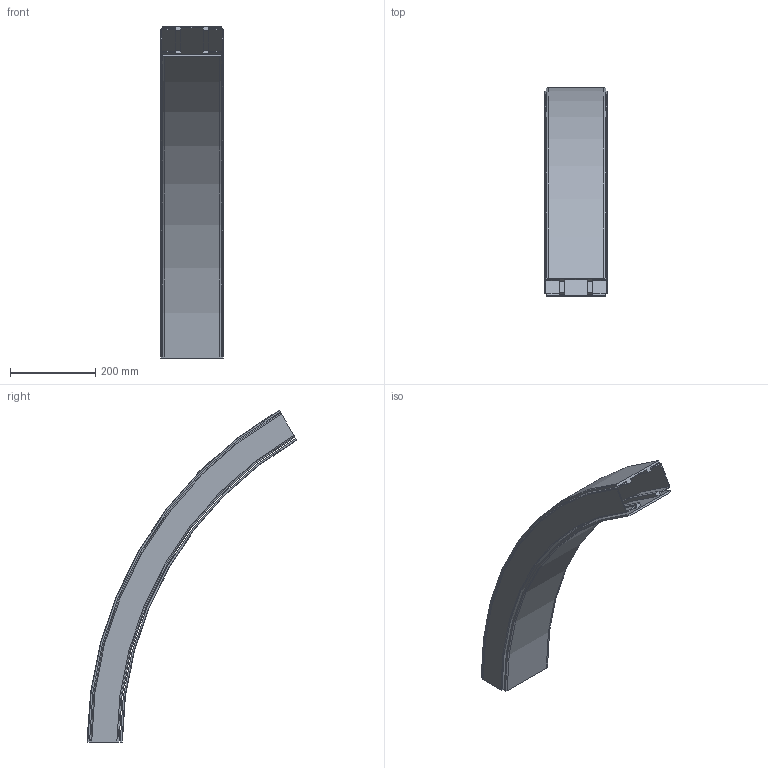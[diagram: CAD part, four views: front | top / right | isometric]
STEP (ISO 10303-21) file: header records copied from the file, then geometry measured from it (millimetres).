
FILE_DESCRIPTION((''),'2;1');
FILE_NAME('C:\Vault Klient\Projekt\Koncept konstruktion\Serie 540 Balk\540-5680_DOWN.stp','2010-11-26T10:04:09',('Mathias'),(''),'Autodesk Inventor 2011','Autodesk Inventor 2011','');
FILE_SCHEMA(('AUTOMOTIVE_DESIGN { 1 0 10303 214 1 1 1 1 }'));
Length unit declared in the file: millimetre
Products named in the file (1): 540-5680_DOWN
Bounding box: 146 x 490.75 x 778.99 mm (x, y, z)
Volume: 2064090.4 mm3; surface area: 1070850.5 mm2
Topology: 2 solids, 2 shells, 87 faces, 234 edges, 156 vertices
Faces by surface type: plane 38, cylinder 25, bspline 14, cone 6, torus 4
Entity records: 3221 total; most frequent: CARTESIAN_POINT 983, ORIENTED_EDGE 468, DIRECTION 428, EDGE_CURVE 234, VERTEX_POINT 156, AXIS2_PLACEMENT_3D 148, VECTOR 132, LINE 132
